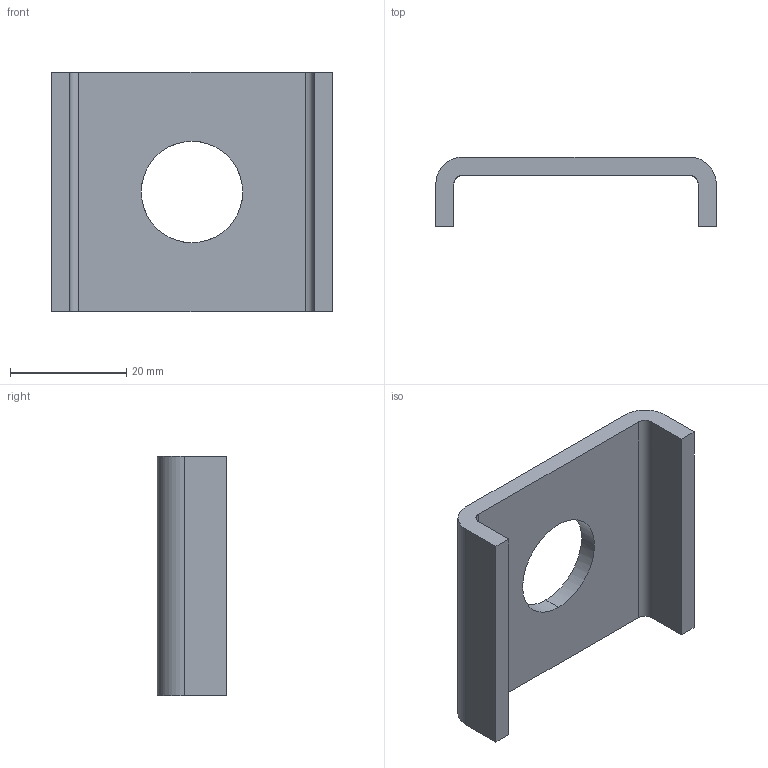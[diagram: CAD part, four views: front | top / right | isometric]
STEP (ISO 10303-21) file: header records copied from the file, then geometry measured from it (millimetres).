
FILE_DESCRIPTION(('TurboCAD Mac Pro'),'Build 980');
FILE_NAME('P2800-62.stp',' ',(''),(''),'ACIS Interop','IMSI','TurboCAD Mac Pro BY IMSI, INCORPORATED');
FILE_SCHEMA(('automotive_design'));
Length unit declared in the file: inch
Products named in the file (1): 1
Bounding box: 48.28 x 11.98 x 41.27 mm (x, y, z)
Volume: 7381.7 mm3; surface area: 5572 mm2
Topology: 1 solids, 1 shells, 18 faces, 48 edges, 32 vertices
Faces by surface type: plane 10, bspline 8
Entity records: 772 total; most frequent: CARTESIAN_POINT 203, ORIENTED_EDGE 96, DIRECTION 54, EDGE_CURVE 48, VERTEX_POINT 32, LINE 32, VECTOR 32, EDGE_LOOP 20
